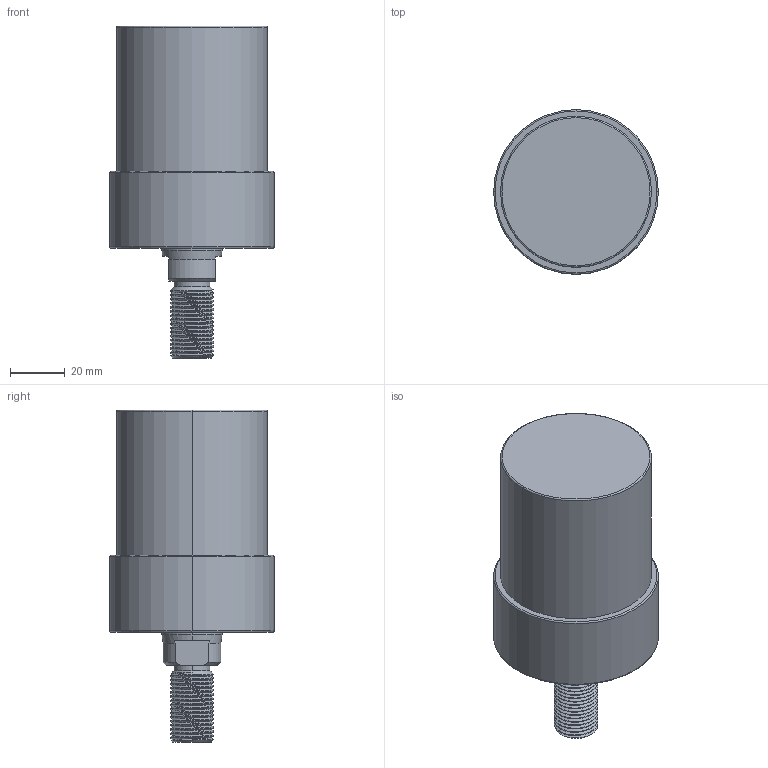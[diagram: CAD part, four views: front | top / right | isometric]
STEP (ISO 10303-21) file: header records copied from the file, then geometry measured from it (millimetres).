
FILE_DESCRIPTION (( 'STEP AP203' ), '1' );
FILE_NAME ('CLLU-055GT-040.STEP', '2020-01-16T00:38:23', ( '' ), ( '' ), 'SwSTEP 2.0', 'SolidWorks 2015', '' );
FILE_SCHEMA (( 'CONFIG_CONTROL_DESIGN' ));
Length unit declared in the file: millimetre
Products named in the file (1): CLLU-055GT-040
Bounding box: 60 x 60 x 121 mm (x, y, z)
Volume: 212378.7 mm3; surface area: 24128.6 mm2
Topology: 1 solids, 1 shells, 101 faces, 253 edges, 155 vertices
Faces by surface type: cylinder 55, cone 26, plane 12, torus 6, bspline 2
Entity records: 4858 total; most frequent: CARTESIAN_POINT 2588, ORIENTED_EDGE 490, DIRECTION 438, EDGE_CURVE 245, AXIS2_PLACEMENT_3D 176, VERTEX_POINT 155, EDGE_LOOP 110, ADVANCED_FACE 101
